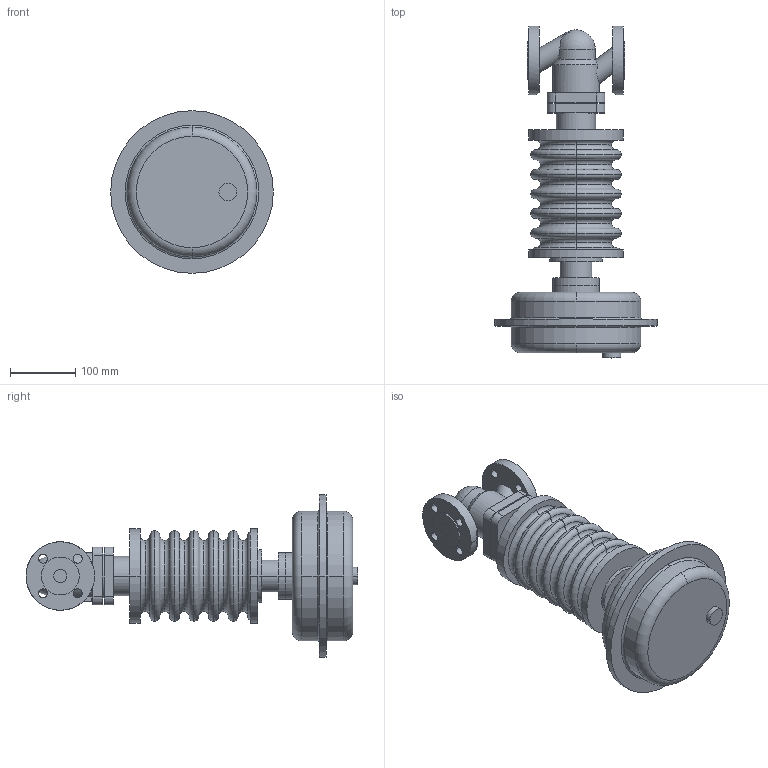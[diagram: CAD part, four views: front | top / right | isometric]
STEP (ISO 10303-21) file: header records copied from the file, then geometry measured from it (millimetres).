
FILE_DESCRIPTION( ( '' ), '1' );
FILE_NAME( 'F:/DE-SHS/TB/OR/04-Sonstiges/daten/files_3d/PREDU/PREDU-PN16-DMA250/c000005352.stp', '2014-06-03T11:12:04', ( '' ), ( '' ), ' ', ' ', ' ' );
FILE_SCHEMA( ( 'CONFIG_CONTROL_DESIGN' ) );
Length unit declared in the file: millimetre
Products named in the file (2): 1; 2
Bounding box: 249 x 508.5 x 249 mm (x, y, z)
Volume: 6572514.3 mm3; surface area: 418178.5 mm2
Topology: 2 solids, 2 shells, 179 faces, 430 edges, 276 vertices
Faces by surface type: cylinder 72, torus 54, plane 50, cone 2, sphere 1
Entity records: 5842 total; most frequent: CARTESIAN_POINT 1323, DIRECTION 1052, ORIENTED_EDGE 856, AXIS2_PLACEMENT_3D 459, EDGE_CURVE 428, VERTEX_POINT 276, CIRCLE 272, EDGE_LOOP 218
